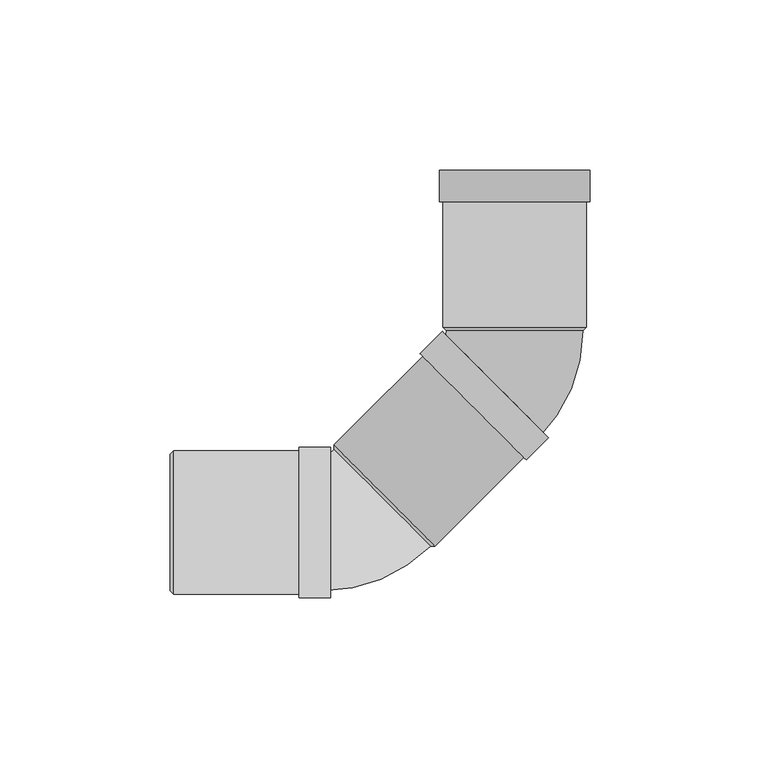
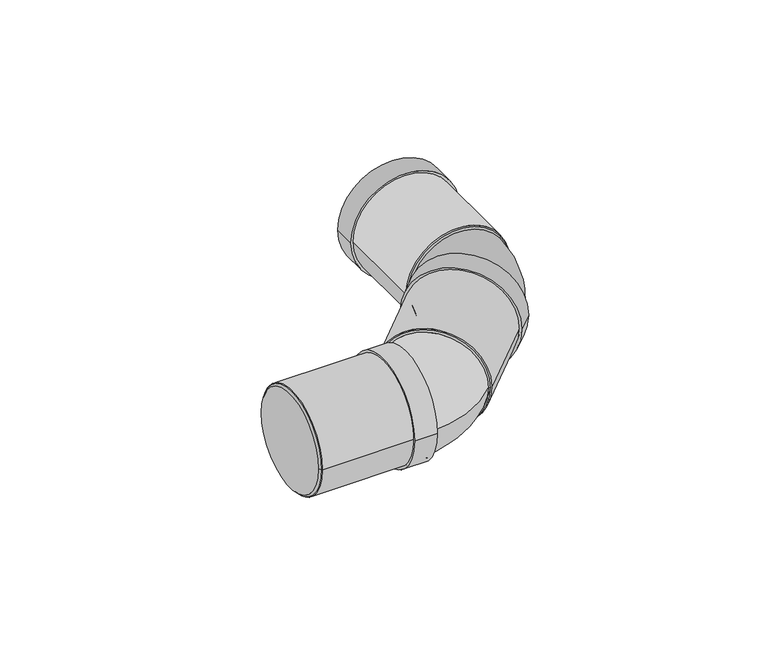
"""IFC4 building model written with IfcOpenShell, lengths in millimetres: pipe fitting geometry, Superdrain HT Bend Composite 2x45 : Superdrain HT Bend Composite 2x45."""

from ifc_helpers import new_model, si_unit, point, frame, origin, origin_2d, place, context, project, spatial, polyline, circle_curve, ellipse_curve, trimmed, segment, composite_curve, outline, extrude, source, transform, mapped, element, save
from ifc_brep_helpers import plane_surface, revolved_surface, advanced_brep


def pipe_fitting_6c856efd(model_context):
    return source(origin(), model_context, "Body", "SolidModel", [
        advanced_brep(
        [(20.0, 56.3033621, 0.0), (-20.0, 56.3033621, 0.0), (6.9296465, 24.7487373, 0.0), (-21.3546248, 53.0330086, 0.0)],
        [
            (0, 1, circle_curve(frame((0.0, 56.3033621, 0.0), z_axis=(0.0, 1.0, 0.0), x_axis=(-1.0, 0.0, 0.0)), 20.0)),
            (1, 0, circle_curve(frame((0.0, 56.3033621, 0.0), z_axis=(0.0, 1.0, 0.0), x_axis=(-1.0, 0.0, 0.0)), 20.0)),
            (2, 3, circle_curve(frame((-7.2124892, 38.890873, 0.0), z_axis=(-0.7071067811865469, -0.707106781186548, 0.0), x_axis=(-0.707106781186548, 0.7071067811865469, 0.0)), 20.0)),
            (3, 2, circle_curve(frame((-7.2124892, 38.890873, 0.0), z_axis=(-0.7071067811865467, -0.7071067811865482, 0.0), x_axis=(-0.7071067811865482, 0.7071067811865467, 0.0)), 20.0)),
            (3, 1, circle_curve(frame((-24.6249783, 56.3033621, 0.0), z_axis=(0.0, 0.0, 1.0), x_axis=(0.7071067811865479, 0.707106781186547, 0.0)), 4.6249783)),
            (0, 2, circle_curve(frame((-24.6249783, 56.3033621, 0.0), z_axis=(0.0, 0.0, -1.0), x_axis=(0.7071067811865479, 0.707106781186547, 0.0)), 44.6249783)),
        ],
        [
            plane_surface(frame((0.0, 56.3033621, 0.0), z_axis=(0.0, 1.0, 0.0), x_axis=(0.0, 0.0, -1.0))),
            plane_surface(frame((-7.2124892, 38.890873, 0.0), z_axis=(-0.7071067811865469, -0.7071067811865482, 0.0), x_axis=(0.0, 0.0, -1.0))),
            revolved_surface(trimmed(ellipse_curve(frame((-7.2124892, 73.7158513, 0.0), z_axis=(0.7071067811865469, -0.707106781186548, 0.0), x_axis=(-0.707106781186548, -0.7071067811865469, 0.0)), 20.0, 20.0), [point((-21.3546248, 59.5737157, 0.0))], [point((6.9296465, 87.8579869, 0.0))], True, "CARTESIAN"), (-24.6249783, 56.3033621, 0.0), (0.0, 0.0, 1.0)),
            revolved_surface(trimmed(ellipse_curve(frame((-7.2124892, 73.7158513, 0.0), z_axis=(0.7071067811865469, -0.707106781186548, 0.0), x_axis=(-0.707106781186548, -0.7071067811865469, 0.0)), 20.0, 20.0), [point((6.9296465, 87.8579869, 0.0))], [point((-21.3546248, 59.5737157, 0.0))], True, "CARTESIAN"), (-24.6249783, 56.3033621, 0.0), (0.0, 0.0, 1.0)),
        ],
        [
            (0, [[1, 2]]),
            (1, [[3, 4]]),
            (2, [[-4, 5, -1, 6]]),
            (3, [[-3, -6, -2, -5]]),
        ],
    ),
        extrude(outline(composite_curve([segment(trimmed(circle_curve(origin_2d(), 21.0), [point((0.0, 21.0))], [point((0.0, -21.0))], False, "CARTESIAN"), True, "CONTINUOUS"), segment(trimmed(circle_curve(origin_2d(), 21.0), [point((0.0, -21.0))], [point((0.0, 21.0))], False, "CARTESIAN"), True, "CONTINUOUS")], self_intersect=False), holes=[composite_curve([segment(trimmed(circle_curve(origin_2d(), 20.0), [point((0.0, 20.0))], [point((0.0, -20.0))], True, "CARTESIAN"), True, "CONTINUOUS"), segment(trimmed(circle_curve(origin_2d(), 20.0), [point((0.0, -20.0))], [point((0.0, 20.0))], True, "CARTESIAN"), True, "CONTINUOUS")], self_intersect=False)]), frame((0.0, 57.3033621, 0.0), z_axis=(0.0, 1.0, 0.0), x_axis=(0.0, 0.0, 1.0)), (0.0, 0.0, 1.0), 46.0),
        extrude(outline(composite_curve([segment(trimmed(circle_curve(origin_2d(), 22.05), [point((0.0, -22.05))], [point((0.0, 22.05))], False, "CARTESIAN"), True, "CONTINUOUS"), segment(trimmed(circle_curve(origin_2d(), 22.05), [point((0.0, 22.05))], [point((0.0, -22.05))], False, "CARTESIAN"), True, "CONTINUOUS")], self_intersect=False), holes=[composite_curve([segment(trimmed(circle_curve(origin_2d(), 20.0), [point((0.0, -20.0))], [point((0.0, 20.0))], True, "CARTESIAN"), True, "CONTINUOUS"), segment(trimmed(circle_curve(origin_2d(), 20.0), [point((0.0, 20.0))], [point((0.0, -20.0))], True, "CARTESIAN"), True, "CONTINUOUS")], self_intersect=False)]), frame((0.0, 94.1033621, 0.0), z_axis=(0.0, 1.0, 0.0), x_axis=(0.0, 0.0, 1.0)), (0.0, 0.0, 1.0), 9.2),
        advanced_brep(
        [(21.0, 57.3033621, 0.0), (-21.0, 57.3033621, 0.0), (20.0, 56.3033621, 0.0), (-20.0, 56.3033621, 0.0)],
        [
            (0, 1, circle_curve(frame((0.0, 57.3033621, 0.0), z_axis=(0.0, 1.0, 0.0), x_axis=(1.0, 0.0, 0.0)), 21.0)),
            (1, 0, circle_curve(frame((0.0, 57.3033621, 0.0), z_axis=(0.0, 1.0, 0.0), x_axis=(-0.9999999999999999, 0.0, 0.0)), 21.0)),
            (2, 3, circle_curve(frame((0.0, 56.3033621, 0.0), z_axis=(0.0, -1.0, 0.0), x_axis=(-0.9999999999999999, 0.0, 0.0)), 20.0)),
            (3, 2, circle_curve(frame((0.0, 56.3033621, 0.0), z_axis=(0.0, -1.0, 0.0), x_axis=(1.0, 0.0, 0.0)), 20.0)),
            (3, 1),
            (0, 2),
        ],
        [
            plane_surface(frame((0.0, 57.3033621, 0.0), z_axis=(0.0, 1.0, 0.0), x_axis=(0.0, 0.0, -1.0))),
            plane_surface(frame((0.0, 56.3033621, 0.0), z_axis=(0.0, -1.0, 0.0), x_axis=(0.0, 0.0, -1.0))),
            revolved_surface(polyline([(-20.0, 56.3033621, 0.0), (-21.0, 57.3033621, 0.0)]), (0.0, 36.3033621, 0.0), (0.0, 1.0, 0.0)),
            revolved_surface(polyline([(20.0, 56.3033621, 0.0), (21.0, 57.3033621, 0.0)]), (0.0, 36.3033621, 0.0), (0.0, 1.0, 0.0)),
        ],
        [
            (0, [[1, 2]]),
            (1, [[3, 4]]),
            (2, [[-4, 5, -1, 6]]),
            (3, [[-3, -6, -2, -5]]),
        ],
    ),
        extrude(outline(composite_curve([segment(trimmed(circle_curve(origin_2d(), 20.0), [point((0.0, -20.0))], [point((0.0, 20.0))], False, "CARTESIAN"), True, "CONTINUOUS"), segment(trimmed(circle_curve(origin_2d(), 20.0), [point((0.0, 20.0))], [point((0.0, -20.0))], False, "CARTESIAN"), True, "CONTINUOUS")], self_intersect=False)), frame((-38.1837662, 7.9195959, 0.0), z_axis=(0.707106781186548, 0.7071067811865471, 0.0), x_axis=(0.0, 0.0, -1.0)), (0.0, 0.0, 1.0), 43.8),
        extrude(outline(composite_curve([segment(trimmed(circle_curve(origin_2d(), 21.0), [point((21.0, 0.0))], [point((-21.0, 0.0))], False, "CARTESIAN"), True, "CONTINUOUS"), segment(trimmed(circle_curve(origin_2d(), 21.0), [point((-21.0, 0.0))], [point((21.0, 0.0))], False, "CARTESIAN"), True, "CONTINUOUS")], self_intersect=False), holes=[composite_curve([segment(trimmed(circle_curve(origin_2d(), 20.0), [point((20.0, 0.0))], [point((-20.0, 0.0))], True, "CARTESIAN"), True, "CONTINUOUS"), segment(trimmed(circle_curve(origin_2d(), 20.0), [point((-20.0, 0.0))], [point((20.0, 0.0))], True, "CARTESIAN"), True, "CONTINUOUS")], self_intersect=False)]), frame((-100.1033621, 0.0, 0.0), z_axis=(1.0, 0.0, 0.0), x_axis=(0.0, 1.0, 0.0)), (0.0, 0.0, 1.0), 46.0),
        extrude(outline(composite_curve([segment(trimmed(circle_curve(origin_2d(), 22.05), [point((22.05, 0.0))], [point((-22.05, 0.0))], False, "CARTESIAN"), True, "CONTINUOUS"), segment(trimmed(circle_curve(origin_2d(), 22.05), [point((-22.05, 0.0))], [point((22.05, 0.0))], False, "CARTESIAN"), True, "CONTINUOUS")], self_intersect=False), holes=[composite_curve([segment(trimmed(circle_curve(origin_2d(), 20.0), [point((20.0, 0.0))], [point((-20.0, 0.0))], True, "CARTESIAN"), True, "CONTINUOUS"), segment(trimmed(circle_curve(origin_2d(), 20.0), [point((-20.0, 0.0))], [point((20.0, 0.0))], True, "CARTESIAN"), True, "CONTINUOUS")], self_intersect=False)]), frame((-63.3033621, 0.0, 0.0), z_axis=(1.0, 0.0, 0.0), x_axis=(0.0, 1.0, 0.0)), (0.0, 0.0, 1.0), 9.2),
        advanced_brep(
        [(-101.1033621, 20.0, 0.0), (-101.1033621, -20.0, 0.0), (-100.1033621, 21.0, 0.0), (-100.1033621, -21.0, 0.0)],
        [
            (0, 1, circle_curve(frame((-101.1033621, 0.0, 0.0), z_axis=(-1.0, 0.0, 0.0), x_axis=(0.0, 1.0000000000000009, 0.0)), 20.0)),
            (1, 0, circle_curve(frame((-101.1033621, 0.0, 0.0), z_axis=(-1.0, 0.0, 0.0), x_axis=(0.0, -1.0000000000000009, 0.0)), 20.0)),
            (2, 3, circle_curve(frame((-100.1033621, 0.0, 0.0), z_axis=(1.0, 0.0, 0.0), x_axis=(0.0, -1.0000000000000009, 0.0)), 21.0)),
            (3, 2, circle_curve(frame((-100.1033621, 0.0, 0.0), z_axis=(1.0, 0.0, 0.0), x_axis=(0.0, 1.0000000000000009, 0.0)), 21.0)),
            (3, 1),
            (0, 2),
        ],
        [
            plane_surface(frame((-101.1033621, 0.0, 0.0), z_axis=(-1.0, 0.0, 0.0), x_axis=(0.0, 0.0, -1.0))),
            plane_surface(frame((-100.1033621, 0.0, 0.0), z_axis=(1.0, 0.0, 0.0), x_axis=(0.0, 0.0, -1.0))),
            revolved_surface(polyline([(-101.1033621, 19.999999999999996, 0.0), (-100.1033621, 21.0, 0.0)]), (-121.1033621, 0.0, 0.0), (1.0000000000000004, 0.0, 0.0)),
            revolved_surface(polyline([(-101.1033621, -19.999999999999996, 0.0), (-100.1033621, -21.0, 0.0)]), (-121.1033621, 0.0, 0.0), (1.0000000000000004, 0.0, 0.0)),
        ],
        [
            (0, [[1, 2]]),
            (1, [[3, 4]]),
            (2, [[-4, 5, -1, 6]]),
            (3, [[-3, -6, -2, -5]]),
        ],
    ),
        advanced_brep(
        [(-24.7487373, -6.9296465, 0.0), (-53.0330086, 21.3546248, 0.0), (-56.3033621, -20.0, 0.0), (-56.3033621, 20.0, 0.0)],
        [
            (0, 1, circle_curve(frame((-38.890873, 7.2124892, 0.0), z_axis=(0.707106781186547, 0.707106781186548, 0.0), x_axis=(-0.707106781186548, 0.707106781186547, 0.0)), 20.0)),
            (1, 0, circle_curve(frame((-38.890873, 7.2124892, 0.0), z_axis=(0.7071067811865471, 0.7071067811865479, 0.0), x_axis=(-0.7071067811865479, 0.7071067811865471, 0.0)), 20.0)),
            (2, 3, circle_curve(frame((-56.3033621, 0.0, 0.0), z_axis=(-1.0, 0.0, 0.0), x_axis=(0.0, 1.0, 0.0)), 20.0)),
            (3, 2, circle_curve(frame((-56.3033621, 0.0, 0.0), z_axis=(-1.0, 0.0, 0.0), x_axis=(0.0, 1.0, 0.0)), 20.0)),
            (3, 1, circle_curve(frame((-56.3033621, 24.6249783, 0.0), z_axis=(0.0, 0.0, 1.0), x_axis=(1.0, 0.0, 0.0)), 4.6249783)),
            (0, 2, circle_curve(frame((-56.3033621, 24.6249783, 0.0), z_axis=(0.0, 0.0, -1.0), x_axis=(1.0, 0.0, 0.0)), 44.6249783)),
        ],
        [
            plane_surface(frame((-38.890873, 7.2124892, 0.0), z_axis=(0.707106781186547, 0.707106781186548, 0.0), x_axis=(0.0, 0.0, -1.0))),
            plane_surface(frame((-56.3033621, 0.0, 0.0), z_axis=(-1.0, 0.0, 0.0), x_axis=(0.0, 0.0, -1.0))),
            revolved_surface(trimmed(ellipse_curve(frame((-31.6783838, 24.6249783, 0.0), z_axis=(0.0, -1.0, 0.0), x_axis=(-1.0, 0.0, 0.0)), 20.0, 20.0), [point((-51.6783838, 24.6249783, 0.0))], [point((-11.6783838, 24.6249783, 0.0))], True, "CARTESIAN"), (-56.3033621, 24.6249783, 0.0), (0.0, 0.0, 1.0)),
            revolved_surface(trimmed(ellipse_curve(frame((-31.6783838, 24.6249783, 0.0), z_axis=(0.0, -1.0, 0.0), x_axis=(-1.0, 0.0, 0.0)), 20.0, 20.0), [point((-11.6783838, 24.6249783, 0.0))], [point((-51.6783838, 24.6249783, 0.0))], True, "CARTESIAN"), (-56.3033621, 24.6249783, 0.0), (0.0, 0.0, 1.0)),
        ],
        [
            (0, [[1, 2]]),
            (1, [[3, 4]]),
            (2, [[-4, 5, -1, 6]]),
            (3, [[-3, -6, -2, -5]]),
        ],
    ),
        extrude(outline(composite_curve([segment(trimmed(circle_curve(origin_2d(), 21.0), [point((0.0, 21.0))], [point((0.0, -21.0000001))], False, "CARTESIAN"), True, "CONTINUOUS"), segment(trimmed(circle_curve(origin_2d(), 21.0), [point((0.0, -21.0000001))], [point((0.0, 21.0))], False, "CARTESIAN"), True, "CONTINUOUS")], self_intersect=False), holes=[composite_curve([segment(trimmed(circle_curve(origin_2d(), 20.0), [point((0.0, 20.0))], [point((0.0, -20.0))], True, "CARTESIAN"), True, "CONTINUOUS"), segment(trimmed(circle_curve(origin_2d(), 20.0), [point((0.0, -20.0))], [point((0.0, 20.0))], True, "CARTESIAN"), True, "CONTINUOUS")], self_intersect=False)]), frame((-38.1837662, 7.9195959, 0.0), z_axis=(0.7071067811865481, 0.707106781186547, 0.0), x_axis=(0.0, 0.0, 1.0)), (0.0, 0.0, 1.0), 46.0),
        extrude(outline(composite_curve([segment(trimmed(circle_curve(origin_2d(), 22.05), [point((0.0, -22.05))], [point((0.0, 22.05))], False, "CARTESIAN"), True, "CONTINUOUS"), segment(trimmed(circle_curve(origin_2d(), 22.05), [point((0.0, 22.05))], [point((0.0, -22.05))], False, "CARTESIAN"), True, "CONTINUOUS")], self_intersect=False), holes=[composite_curve([segment(trimmed(circle_curve(origin_2d(), 20.0), [point((0.0, -20.0))], [point((0.0, 20.0))], True, "CARTESIAN"), True, "CONTINUOUS"), segment(trimmed(circle_curve(origin_2d(), 20.0), [point((0.0, 20.0))], [point((0.0, -20.0))], True, "CARTESIAN"), True, "CONTINUOUS")], self_intersect=False)]), frame((-12.1622366, 33.9411255, 0.0), z_axis=(0.707106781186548, 0.707106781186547, 0.0), x_axis=(0.0, 0.0, 1.0)), (0.0, 0.0, 1.0), 9.2),
        advanced_brep(
        [(-23.3345238, -6.9296465, 0.0), (-53.0330086, 22.7688384, 0.0), (-24.7487373, -6.9296465, 0.0), (-53.0330086, 21.3546248, 0.0)],
        [
            (0, 1, circle_curve(frame((-38.1837662, 7.9195959, 0.0), z_axis=(0.7071067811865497, 0.7071067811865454, 0.0), x_axis=(0.7071067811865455, -0.7071067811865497, 0.0)), 21.0)),
            (1, 0, circle_curve(frame((-38.1837662, 7.9195959, 0.0), z_axis=(0.7071067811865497, 0.7071067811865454, 0.0), x_axis=(-0.7071067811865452, 0.7071067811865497, 0.0)), 21.0)),
            (2, 3, circle_curve(frame((-38.890873, 7.2124892, 0.0), z_axis=(-0.7071067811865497, -0.7071067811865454, 0.0), x_axis=(-0.7071067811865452, 0.7071067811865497, 0.0)), 20.0)),
            (3, 2, circle_curve(frame((-38.890873, 7.2124892, 0.0), z_axis=(-0.7071067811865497, -0.7071067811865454, 0.0), x_axis=(0.7071067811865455, -0.7071067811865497, 0.0)), 20.0)),
            (3, 1),
            (0, 2),
        ],
        [
            plane_surface(frame((-38.1837662, 7.9195959, 0.0), z_axis=(0.707106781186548, 0.707106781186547, 0.0), x_axis=(0.0, 0.0, -1.0))),
            plane_surface(frame((-38.890873, 7.2124892, 0.0), z_axis=(-0.707106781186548, -0.707106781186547, 0.0), x_axis=(0.0, 0.0, -1.0))),
            revolved_surface(polyline([(-53.0330086, 21.354624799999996, 0.0), (-53.0330086, 22.7688384, 0.0)]), (-53.0330086, -6.9296465, 0.0), (0.7071067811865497, 0.7071067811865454, 0.0)),
            revolved_surface(polyline([(-24.748737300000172, -6.9296465, 0.0), (-23.334523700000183, -6.9296465, 0.0)]), (-53.0330086, -6.9296465, 0.0), (0.7071067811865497, 0.7071067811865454, 0.0)),
        ],
        [
            (0, [[1, 2]]),
            (1, [[3, 4]]),
            (2, [[-4, 5, -1, 6]]),
            (3, [[-3, -6, -2, -5]]),
        ],
    ),
        extrude(outline(composite_curve([segment(trimmed(circle_curve(origin_2d(), 20.0), [point((-20.0, 0.0))], [point((20.0, 0.0))], False, "CARTESIAN"), True, "CONTINUOUS"), segment(trimmed(circle_curve(origin_2d(), 20.0), [point((20.0, 0.0))], [point((-20.0, 0.0))], False, "CARTESIAN"), True, "CONTINUOUS")], self_intersect=False)), frame((-100.1033621, 0.0, 0.0), z_axis=(1.0, 0.0, 0.0), x_axis=(0.0, 1.0, 0.0)), (0.0, 0.0, 1.0), 43.8),
    ])


if __name__ == "__main__":
    model = new_model("IFC4")
    model_context = context("Model", 3, world=origin())
    ifc_project = project(units=[si_unit("LENGTHUNIT", "METRE", prefix="MILLI")], contexts=[model_context])
    site = spatial("IfcSite", under=ifc_project)
    building = spatial("IfcBuilding", under=site)
    placement = place(None, origin())
    pipe_fitting_shape = pipe_fitting_6c856efd(model_context)
    element("IfcPipeFitting", 1, ObjectType="Superdrain HT Bend Composite 2x45 : Superdrain HT Bend Composite 2x45", at=placement, inside=building, context=model_context, shape_type="MappedRepresentation", body=[
        mapped(pipe_fitting_shape, transform((0.0, 0.0, 0.0), x_axis=(1.0, 0.0, 0.0), y_axis=(0.0, 1.0, 0.0), z_axis=(0.0, 0.0, 1.0))),
    ])
    save(model, "model.ifc")
